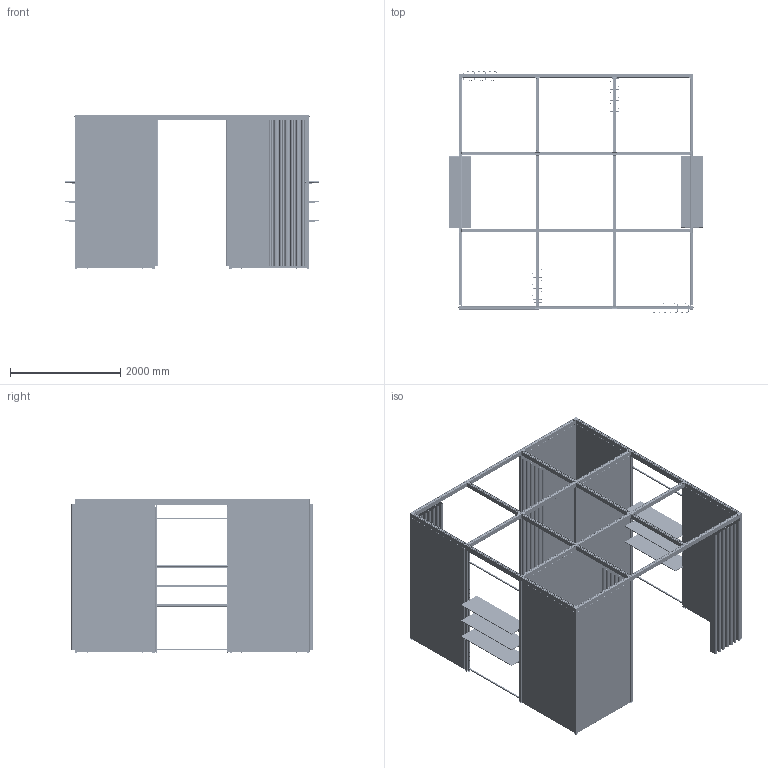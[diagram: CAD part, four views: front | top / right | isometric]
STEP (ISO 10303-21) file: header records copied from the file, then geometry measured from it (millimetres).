
FILE_DESCRIPTION (( 'STEP AP214' ), '1' );
FILE_NAME ('Aufbau2.STEP', '2025-10-08T11:34:29', ( '' ), ( '' ), 'SwSTEP 2.0', 'SolidWorks 2025', '' );
FILE_SCHEMA (( 'AUTOMOTIVE_DESIGN' ));
Length unit declared in the file: millimetre
Products named in the file (1): Aufbau2
Bounding box: 4600 x 4377 x 2802 mm (x, y, z)
Volume: 997196806.1 mm3; surface area: 215751169.5 mm2
Topology: 188 solids, 188 shells, 16816 faces, 46880 edges, 30920 vertices
Faces by surface type: plane 11736, cylinder 3968, bspline 712, cone 232, torus 136, sphere 32
Entity records: 599778 total; most frequent: CARTESIAN_POINT 158425, ORIENTED_EDGE 93760, DIRECTION 84106, EDGE_CURVE 46880, LINE 36816, VECTOR 36816, VERTEX_POINT 30920, AXIS2_PLACEMENT_3D 23645
